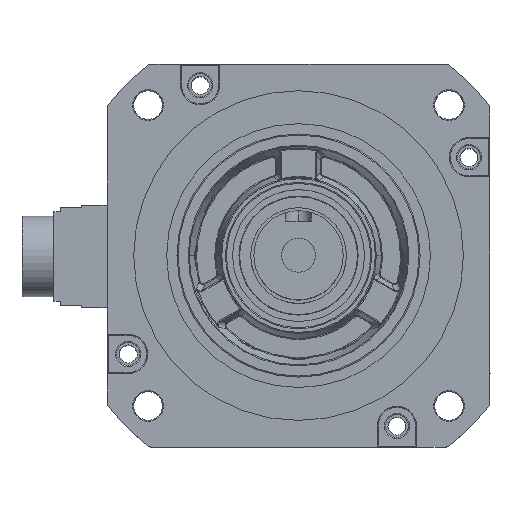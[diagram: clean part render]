
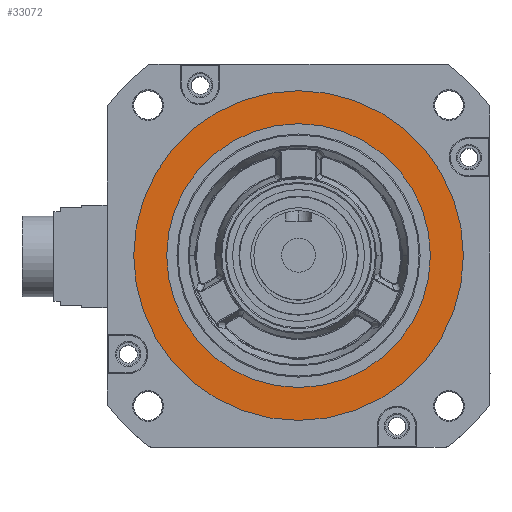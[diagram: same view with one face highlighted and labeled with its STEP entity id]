
A CAD part, top view. The second image highlights one B-rep face of the part: STEP entity #33072.
In plain terms, the highlighted planar face has unit normal (0, 0, 1).
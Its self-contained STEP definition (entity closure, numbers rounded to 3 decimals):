
#21693=CARTESIAN_POINT('Vertex',(68.644,3.946,32.604)) ;
#21700=CARTESIAN_POINT('Vertex',(-86.356,3.946,32.604)) ;
#21703=CARTESIAN_POINT('Axis2P3D Location',(-8.856,3.946,32.604)) ;
#21715=CARTESIAN_POINT('Axis2P3D Location',(-8.856,3.946,32.604)) ;
#33045=CARTESIAN_POINT('Axis2P3D Location',(-8.856,3.946,32.604)) ;
#33054=CARTESIAN_POINT('Axis2P3D Location',(-8.856,3.946,32.604)) ;
#33058=CARTESIAN_POINT('Vertex',(-70.856,3.946,32.604)) ;
#33060=CARTESIAN_POINT('Vertex',(53.144,3.946,32.604)) ;
#33063=CARTESIAN_POINT('Axis2P3D Location',(-8.856,3.946,32.604)) ;
#21704=DIRECTION('Axis2P3D Direction',(0.,0.,1.)) ;
#21716=DIRECTION('Axis2P3D Direction',(0.,0.,1.)) ;
#33046=DIRECTION('Axis2P3D Direction',(0.,0.,1.)) ;
#33047=DIRECTION('Axis2P3D XDirection',(1.,0.,0.)) ;
#33055=DIRECTION('Axis2P3D Direction',(0.,0.,1.)) ;
#33064=DIRECTION('Axis2P3D Direction',(0.,0.,1.)) ;
#21705=AXIS2_PLACEMENT_3D('Circle Axis2P3D',#21703,#21704,$) ;
#21717=AXIS2_PLACEMENT_3D('Circle Axis2P3D',#21715,#21716,$) ;
#33048=AXIS2_PLACEMENT_3D('Plane Axis2P3D',#33045,#33046,#33047) ;
#33056=AXIS2_PLACEMENT_3D('Circle Axis2P3D',#33054,#33055,$) ;
#33065=AXIS2_PLACEMENT_3D('Circle Axis2P3D',#33063,#33064,$) ;
#33051=ORIENTED_EDGE('',*,*,#21707,.T.) ;
#33052=ORIENTED_EDGE('',*,*,#21719,.T.) ;
#33069=ORIENTED_EDGE('',*,*,#33062,.F.) ;
#33070=ORIENTED_EDGE('',*,*,#33067,.F.) ;
#33071=FACE_BOUND('',#33068,.T.) ;
#33072=ADVANCED_FACE('',(#33053,#33071),#33049,.T.) ;
#21706=CIRCLE('generated circle',#21705,77.5) ;
#21718=CIRCLE('generated circle',#21717,77.5) ;
#33057=CIRCLE('generated circle',#33056,62.) ;
#33066=CIRCLE('generated circle',#33065,62.) ;
#21707=EDGE_CURVE('',#21694,#21701,#21706,.T.) ;
#21719=EDGE_CURVE('',#21701,#21694,#21718,.T.) ;
#33062=EDGE_CURVE('',#33059,#33061,#33057,.T.) ;
#33067=EDGE_CURVE('',#33061,#33059,#33066,.T.) ;
#33050=EDGE_LOOP('',(#33051,#33052)) ;
#33068=EDGE_LOOP('',(#33069,#33070)) ;
#33053=FACE_OUTER_BOUND('',#33050,.T.) ;
#33049=PLANE('Plane',#33048) ;
#21694=VERTEX_POINT('',#21693) ;
#21701=VERTEX_POINT('',#21700) ;
#33059=VERTEX_POINT('',#33058) ;
#33061=VERTEX_POINT('',#33060) ;
